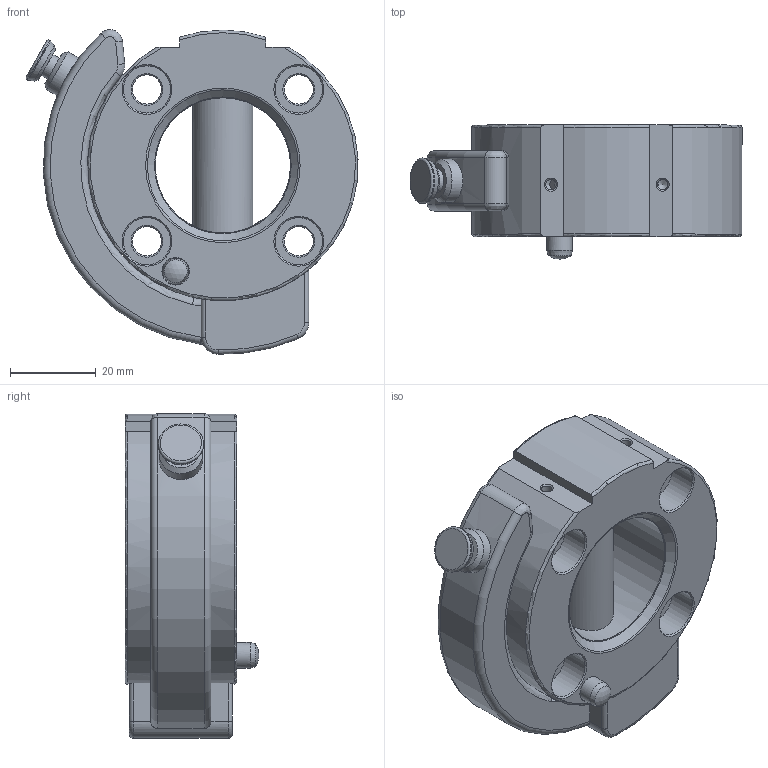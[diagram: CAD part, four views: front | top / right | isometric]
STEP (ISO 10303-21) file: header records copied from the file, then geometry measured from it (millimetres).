
FILE_DESCRIPTION(/* description */ (''),/* implementation_level */ '2;1');
FILE_NAME(/* name */ '\\dc01\Daten\CAD\Standard\Daten\3D-Datenbank\SHW\4 - 3D-CAD-Daten SHW\SHW063\G-SHW063-2OE Vereinfachung.stp',/* time_stamp */ '2020-05-18T16:48:18+02:00',/* author */ ('GRIP'),/* organization */ (''),/* preprocessor_version */ 'ST-DEVELOPER v17',/* originating_system */ 'Autodesk Inventor 2018',/* authorisation */ '');
FILE_SCHEMA (('AUTOMOTIVE_DESIGN { 1 0 10303 214 3 1 1 }'));
Length unit declared in the file: millimetre
Products named in the file (1): G-SHW063-2OE Vwereinfachung
Bounding box: 77.31 x 31.17 x 75.57 mm (x, y, z)
Volume: 79516.5 mm3; surface area: 20780.1 mm2
Topology: 1 solids, 7 shells, 148 faces, 355 edges, 235 vertices
Faces by surface type: cylinder 56, cone 30, plane 30, torus 27, bspline 4, sphere 1
Full cylindrical faces by diameter (mm): 2.459 x2, 5.58 x1, 5.8 x1, 6 x4, 6.2 x1, 6.8 x4, 7 x1, 10.1 x1, 10.6 x1, 11 x4, 14 x1, 31.5 x1
Entity records: 5402 total; most frequent: CARTESIAN_POINT 1807, DIRECTION 773, ORIENTED_EDGE 706, EDGE_CURVE 353, AXIS2_PLACEMENT_3D 335, VERTEX_POINT 235, CIRCLE 190, EDGE_LOOP 180
